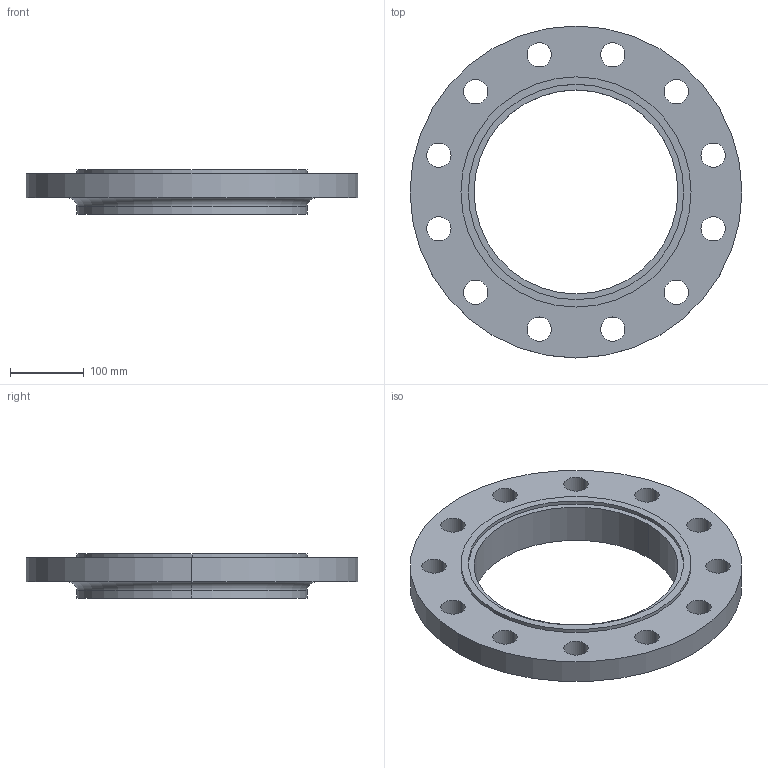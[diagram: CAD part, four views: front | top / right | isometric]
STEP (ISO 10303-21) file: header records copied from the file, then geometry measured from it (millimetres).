
FILE_DESCRIPTION (( 'STEP AP214' ), '1' );
FILE_NAME ('PN40 DN250 Type 12 - Type C Face.STEP', '2019-01-05T16:05:49', ( '' ), ( '' ), 'SwSTEP 2.0', 'SolidWorks 2019', '' );
FILE_SCHEMA (( 'AUTOMOTIVE_DESIGN' ));
Length unit declared in the file: millimetre
Products named in the file (1): PN40 DN250 Type 12 - Type C Face
Bounding box: 450 x 450 x 60 mm (x, y, z)
Volume: 3367457 mm3; surface area: 339018.1 mm2
Topology: 1 solids, 1 shells, 41 faces, 106 edges, 70 vertices
Faces by surface type: cylinder 34, plane 5, torus 2
Entity records: 1382 total; most frequent: DIRECTION 262, CARTESIAN_POINT 218, ORIENTED_EDGE 212, AXIS2_PLACEMENT_3D 114, EDGE_CURVE 106, CIRCLE 72, EDGE_LOOP 70, VERTEX_POINT 70
